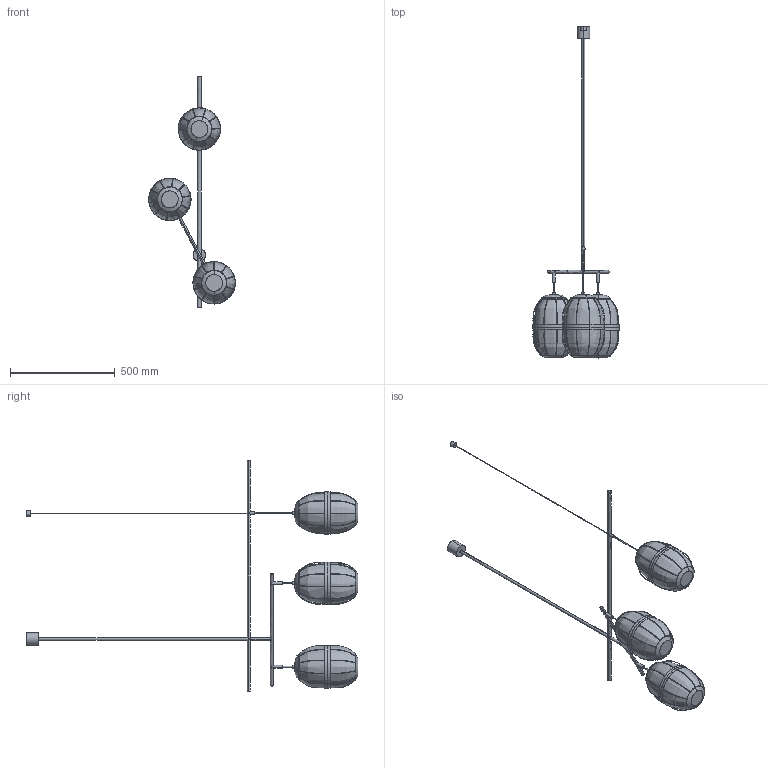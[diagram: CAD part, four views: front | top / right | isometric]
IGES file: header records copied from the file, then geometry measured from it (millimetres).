
Start section: SolidWorks IGES file using analytic representation for surfaces
Global section: file name: C:\Users\Agustin\Desktop\ENERO 2025\PIE PANTALLA TELA\PULL_C1249_3.IGS; native system: SolidWorks 2018; preprocessor: SolidWorks 2018; author: Agustin; date: 250305.174329; units: millimetre
Bounding box: 412.81 x 1580 x 1100 mm (x, y, z)
Surface area: 1491716 mm2 (no closed solid volume)
Topology: 0 solids, 0 shells, 514 faces, 8516 edges, 8516 vertices
Faces by surface type: bspline 336, revolution 178
